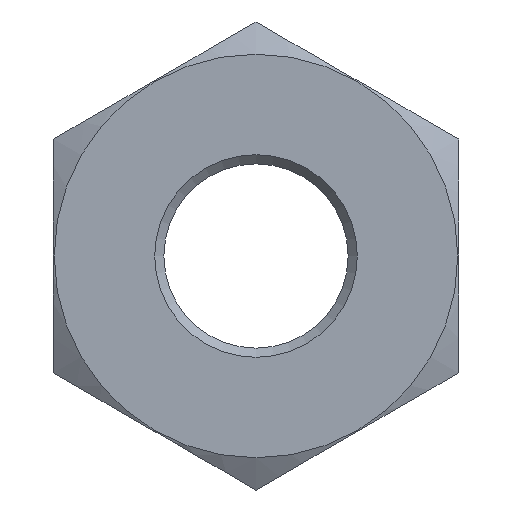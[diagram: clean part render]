
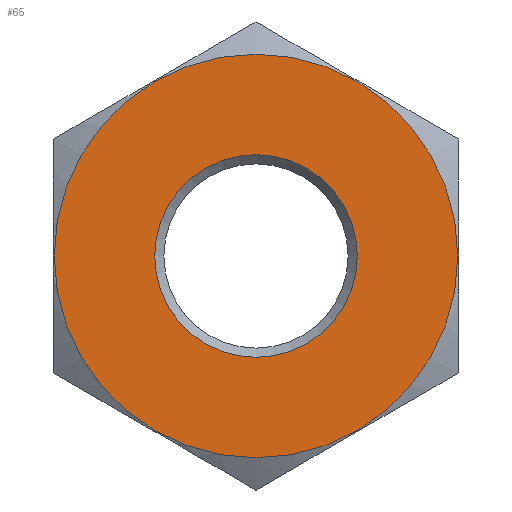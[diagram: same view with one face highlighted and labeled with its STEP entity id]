
A CAD part, left-side view. The second image highlights one B-rep face of the part: STEP entity #65.
In plain terms, the highlighted planar face has unit normal (-1, 0, 0).
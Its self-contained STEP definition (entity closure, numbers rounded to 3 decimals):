
#65 = ADVANCED_FACE( '', ( #136, #137 ), #138, .F. );
#136 = FACE_BOUND( '', #205, .T. );
#137 = FACE_OUTER_BOUND( '', #206, .T. );
#138 = PLANE( '', #207 );
#205 = EDGE_LOOP( '', ( #314 ) );
#206 = EDGE_LOOP( '', ( #315 ) );
#207 = AXIS2_PLACEMENT_3D( '', #316, #317, #318 );
#314 = ORIENTED_EDGE( '', *, *, #370, .T. );
#315 = ORIENTED_EDGE( '', *, *, #384, .T. );
#316 = CARTESIAN_POINT( '', ( -17.5, 0., 0. ) );
#317 = DIRECTION( '', ( 1., 0., 0. ) );
#318 = DIRECTION( '', ( 0., 1., 0. ) );
#370 = EDGE_CURVE( '', #429, #429, #430, .T. );
#384 = EDGE_CURVE( '', #450, #450, #451, .T. );
#429 = VERTEX_POINT( '', #599 );
#430 = CIRCLE( '', #600, 5.5 );
#450 = VERTEX_POINT( '', #654 );
#451 = CIRCLE( '', #655, 10.952 );
#599 = CARTESIAN_POINT( '', ( -17.5, 5.5, 0. ) );
#600 = AXIS2_PLACEMENT_3D( '', #680, #681, #682 );
#654 = CARTESIAN_POINT( '', ( -17.5, 0., 10.952 ) );
#655 = AXIS2_PLACEMENT_3D( '', #696, #697, #698 );
#680 = CARTESIAN_POINT( '', ( -17.5, 0., 0. ) );
#681 = DIRECTION( '', ( 1., 0., 0. ) );
#682 = DIRECTION( '', ( 0., 1., 0. ) );
#696 = CARTESIAN_POINT( '', ( -17.5, 0., 0. ) );
#697 = DIRECTION( '', ( -1., 0., 0. ) );
#698 = DIRECTION( '', ( 0., 0., 1. ) );
